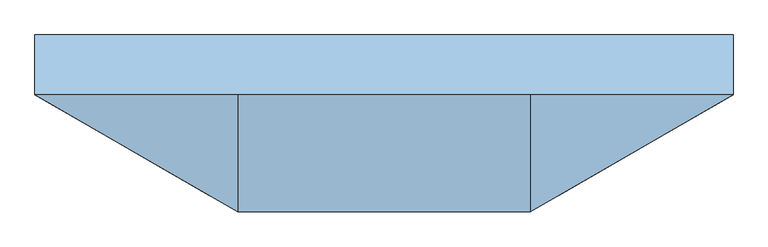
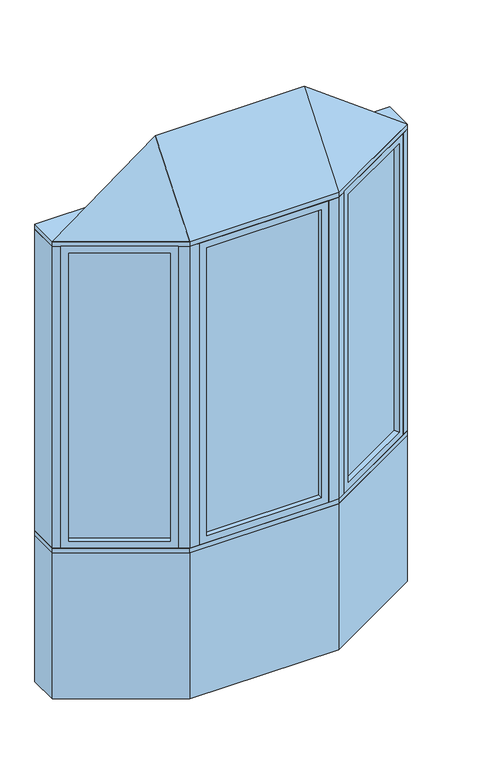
"""IFC4 building model written with IfcOpenShell, lengths in millimetres: window geometry, Pollard_Windows_Tudor Casement Bows and Bays : AML-BAY 30 AFR0516-08-500."""

from ifc_helpers import new_model, si_unit, frame, origin, origin_with_axes, place, context, project, spatial, polyline, outline, extrude, faceted_brep, source, transform, mapped, element, save


def window_a33aca33(model_context):
    return source(origin(), model_context, "Body", "SolidModel", [
        extrude(outline(polyline([(826.612102, -82.0482469), (423.7320119, -314.6511754), (421.1920119, -310.2517664), (824.072102, -77.6488379), (826.612102, -82.0482469)])), frame((0.0, 0.0, 823.1628), z_axis=(0.0, 0.0, 1.0), x_axis=(1.0, 0.0, 0.0)), (0.0, 0.0, 1.0), 1553.6704),
        faceted_brep([(815.6135794, -88.3982469, 835.8628), (828.3135794, -110.3952922, 835.8628), (828.3135794, -110.3952922, 2364.1332), (815.6135794, -88.3982469, 2364.1332), (824.072102, -77.6488379, 823.1628), (826.612102, -82.0482469, 823.1628), (826.612102, -82.0482469, 2376.8332), (824.072102, -77.6488379, 2376.8332), (800.3735794, -62.0017926, 835.8628), (813.0735794, -83.9988379, 835.8628), (813.0735794, -83.9988379, 2364.1332), (800.3735794, -62.0017926, 2364.1332), (859.3734073, -92.4628922, 799.998), (831.4334073, -44.0693926, 799.998), (831.4334073, -44.0693926, 2399.998), (859.3734073, -92.4628922, 2399.998), (447.4305346, -330.2982207, 2364.1332), (434.7305346, -308.3011754, 2364.1332), (423.7320119, -314.6511754, 2376.8332), (421.1920119, -310.2517664, 2376.8332), (432.1905346, -303.9017664, 2364.1332), (419.4905346, -281.9047211, 2364.1332), (388.4307067, -299.8371211, 2399.998), (416.3707067, -348.2306207, 2399.998), (447.4305346, -330.2982207, 835.8628), (434.7305346, -308.3011754, 835.8628), (423.7320119, -314.6511754, 823.1628), (421.1920119, -310.2517664, 823.1628), (432.1905346, -303.9017664, 835.8628), (419.4905346, -281.9047211, 835.8628), (388.4307067, -299.8371211, 799.998), (416.3707067, -348.2306207, 799.998)], [[[0, 1, 2, 3]], [[4, 5, 6, 7]], [[8, 9, 10, 11]], [[12, 13, 14, 15]], [[3, 2, 16, 17]], [[7, 6, 18, 19]], [[11, 10, 20, 21]], [[15, 14, 22, 23]], [[17, 16, 24, 25]], [[19, 18, 26, 27]], [[21, 20, 28, 29]], [[23, 22, 30, 31]], [[25, 24, 1, 0]], [[5, 26, 18, 6], [3, 17, 25, 0]], [[27, 26, 5, 4]], [[7, 19, 27, 4], [9, 28, 20, 10]], [[29, 28, 9, 8]], [[13, 30, 22, 14], [11, 21, 29, 8]], [[31, 30, 13, 12]], [[15, 23, 31, 12], [1, 24, 16, 2]]]),
        extrude(outline(polyline([(-423.7320119, -314.6511754), (-826.612102, -82.0482469), (-824.072102, -77.6488379), (-421.1920119, -310.2517664), (-423.7320119, -314.6511754)])), frame((0.0, 0.0, 823.1628), z_axis=(0.0, 0.0, 1.0), x_axis=(1.0, 0.0, 0.0)), (0.0, 0.0, 1.0), 1553.6704),
        faceted_brep([(-432.1905346, -303.9017664, 2364.1332), (-419.4905346, -281.9047211, 2364.1332), (-419.4905346, -281.9047211, 835.8628), (-432.1905346, -303.9017664, 835.8628), (-423.7320119, -314.6511754, 2376.8332), (-421.1920119, -310.2517664, 2376.8332), (-421.1920119, -310.2517664, 823.1628), (-423.7320119, -314.6511754, 823.1628), (-447.4305346, -330.2982207, 2364.1332), (-434.7305346, -308.3011754, 2364.1332), (-434.7305346, -308.3011754, 835.8628), (-447.4305346, -330.2982207, 835.8628), (-388.4307067, -299.8371211, 2399.998), (-416.3707067, -348.2306207, 2399.998), (-416.3707067, -348.2306207, 799.998), (-388.4307067, -299.8371211, 799.998), (-800.3735794, -62.0017926, 835.8628), (-813.0735794, -83.9988379, 835.8628), (-824.072102, -77.6488379, 823.1628), (-826.612102, -82.0482469, 823.1628), (-815.6135794, -88.3982469, 835.8628), (-828.3135794, -110.3952922, 835.8628), (-859.3734073, -92.4628922, 799.998), (-831.4334073, -44.0693926, 799.998), (-800.3735794, -62.0017926, 2364.1332), (-813.0735794, -83.9988379, 2364.1332), (-824.072102, -77.6488379, 2376.8332), (-826.612102, -82.0482469, 2376.8332), (-815.6135794, -88.3982469, 2364.1332), (-828.3135794, -110.3952922, 2364.1332), (-859.3734073, -92.4628922, 2399.998), (-831.4334073, -44.0693926, 2399.998)], [[[0, 1, 2, 3]], [[4, 5, 6, 7]], [[8, 9, 10, 11]], [[12, 13, 14, 15]], [[3, 2, 16, 17]], [[7, 6, 18, 19]], [[11, 10, 20, 21]], [[15, 14, 22, 23]], [[17, 16, 24, 25]], [[19, 18, 26, 27]], [[21, 20, 28, 29]], [[23, 22, 30, 31]], [[15, 23, 31, 12], [1, 24, 16, 2]], [[25, 24, 1, 0]], [[5, 26, 18, 6], [3, 17, 25, 0]], [[27, 26, 5, 4]], [[7, 19, 27, 4], [9, 28, 20, 10]], [[29, 28, 9, 8]], [[13, 30, 22, 14], [11, 21, 29, 8]], [[31, 30, 13, 12]]]),
        extrude(outline(polyline([(299.9046365, -347.8306207), (-299.9046365, -347.8306207), (-299.9046365, -342.7506207), (299.9046365, -342.7506207), (299.9046365, -347.8306207)])), frame((0.0, 0.0, 823.1628), z_axis=(0.0, 0.0, 1.0), x_axis=(1.0, 0.0, 0.0)), (0.0, 0.0, 1.0), 1553.6704),
        faceted_brep([(287.2046365, -347.8306207, 835.8628), (287.2046365, -373.2306207, 835.8628), (287.2046365, -373.2306207, 2364.1332), (287.2046365, -347.8306207, 2364.1332), (299.9046365, -342.7506207, 823.1628), (299.9046365, -347.8306207, 823.1628), (299.9046365, -347.8306207, 2376.8332), (299.9046365, -342.7506207, 2376.8332), (287.2046365, -317.3506207, 835.8628), (287.2046365, -342.7506207, 835.8628), (287.2046365, -342.7506207, 2364.1332), (287.2046365, -317.3506207, 2364.1332), (323.0694365, -373.2306207, 799.998), (323.0694365, -317.3506207, 799.998), (323.0694365, -317.3506207, 2399.998), (323.0694365, -373.2306207, 2399.998), (-287.2046365, -373.2306207, 2364.1332), (-287.2046365, -347.8306207, 2364.1332), (-299.9046365, -347.8306207, 2376.8332), (-299.9046365, -342.7506207, 2376.8332), (-287.2046365, -342.7506207, 2364.1332), (-287.2046365, -317.3506207, 2364.1332), (-323.0694365, -317.3506207, 2399.998), (-323.0694365, -373.2306207, 2399.998), (-287.2046365, -373.2306207, 835.8628), (-287.2046365, -347.8306207, 835.8628), (-299.9046365, -347.8306207, 823.1628), (-299.9046365, -342.7506207, 823.1628), (-287.2046365, -342.7506207, 835.8628), (-287.2046365, -317.3506207, 835.8628), (-323.0694365, -317.3506207, 799.998), (-323.0694365, -373.2306207, 799.998)], [[[0, 1, 2, 3]], [[4, 5, 6, 7]], [[8, 9, 10, 11]], [[12, 13, 14, 15]], [[3, 2, 16, 17]], [[7, 6, 18, 19]], [[11, 10, 20, 21]], [[15, 14, 22, 23]], [[17, 16, 24, 25]], [[19, 18, 26, 27]], [[21, 20, 28, 29]], [[23, 22, 30, 31]], [[15, 23, 31, 12], [1, 24, 16, 2]], [[25, 24, 1, 0]], [[5, 26, 18, 6], [3, 17, 25, 0]], [[27, 26, 5, 4]], [[7, 19, 27, 4], [9, 28, 20, 10]], [[29, 28, 9, 8]], [[13, 30, 22, 14], [11, 21, 29, 8]], [[31, 30, 13, 12]]]),
        faceted_brep([(890.0, -74.7806207, 2425.398), (373.0694365, -373.2306207, 2425.398), (-373.0694365, -373.2306207, 2425.398), (-890.0, -74.7806207, 2425.398), (-373.0694365, -74.7806207, 2806.398), (373.0694365, -74.7806207, 2806.398)], [[[0, 1, 2, 3]], [[3, 2, 4]], [[2, 1, 5, 4]], [[1, 0, 5]], [[0, 3, 4, 5]]]),
        extrude(outline(polyline([(-890.0, 77.6193793), (890.0, 77.6193793), (890.0, -74.7806207), (373.0694365, -373.2306207), (-373.0694365, -373.2306207), (-890.0, -74.7806207), (-890.0, 77.6193793)])), frame((0.0, 0.0, 2399.998), z_axis=(0.0, 0.0, 1.0), x_axis=(1.0, 0.0, 0.0)), (0.0, 0.0, 1.0), 25.4),
        extrude(outline(polyline([(-890.0, -74.7806207), (-890.0, 77.6193793), (-849.1645431, 77.6193793), (-849.1645431, -74.7806207), (-859.3734073, -92.4628922), (-890.0, -74.7806207)])), frame((0.0, 0.0, 799.998), z_axis=(0.0, 0.0, 1.0), x_axis=(1.0, 0.0, 0.0)), (0.0, 0.0, 1.0), 1600.0),
        extrude(outline(polyline([(890.0, 77.6193793), (890.0, -74.7806207), (859.3734073, -92.4628922), (849.1645431, -74.7806207), (849.1645431, 77.6193793), (890.0, 77.6193793)])), frame((0.0, 0.0, 799.998), z_axis=(0.0, 0.0, 1.0), x_axis=(1.0, 0.0, 0.0)), (0.0, 0.0, 1.0), 1600.0),
        extrude(outline(polyline([(373.0694365, -373.2306207), (323.0694365, -373.2306207), (323.0694365, -323.2306207), (359.6719769, -323.2306207), (391.3707067, -304.9293505), (416.3707067, -348.2306207), (373.0694365, -373.2306207)])), frame((0.0, 0.0, 799.998), z_axis=(0.0, 0.0, 1.0), x_axis=(1.0, 0.0, 0.0)), (0.0, 0.0, 1.0), 1600.0),
        extrude(outline(polyline([(-373.0694365, -373.2306207), (-416.3707067, -348.2306207), (-391.3707067, -304.9293505), (-359.6719769, -323.2306207), (-323.0694365, -323.2306207), (-323.0694365, -373.2306207), (-373.0694365, -373.2306207)])), frame((0.0, 0.0, 799.998), z_axis=(0.0, 0.0, 1.0), x_axis=(1.0, 0.0, 0.0)), (0.0, 0.0, 1.0), 1600.0),
        extrude(outline(polyline([(-373.0694365, -373.2306207), (-890.0, -74.7806207), (-890.0, 77.6193793), (-849.1645431, 77.6193793), (-332.2339796, -220.8306207), (332.2339796, -220.8306207), (849.1645431, 77.6193793), (890.0, 77.6193793), (890.0, -74.7806207), (373.0694365, -373.2306207), (-373.0694365, -373.2306207)])), frame((0.0, 0.0, 774.598), z_axis=(0.0, 0.0, 1.0), x_axis=(1.0, 0.0, 0.0)), (0.0, 0.0, 1.0), 25.4),
        extrude(outline(polyline([(-890.0, -74.7806207), (-890.0, 77.6193793), (-849.1645431, 77.6193793), (-332.2339796, -220.8306207), (332.2339796, -220.8306207), (849.1645431, 77.6193793), (890.0, 77.6193793), (890.0, -74.7806207), (373.0694365, -373.2306207), (-373.0694365, -373.2306207), (-890.0, -74.7806207)])), origin_with_axes(), (0.0, 0.0, 1.0), 774.598),
    ])


if __name__ == "__main__":
    model = new_model("IFC4")
    model_context = context("Model", 3, world=origin())
    ifc_project = project(units=[si_unit("LENGTHUNIT", "METRE", prefix="MILLI")], contexts=[model_context])
    site = spatial("IfcSite", under=ifc_project)
    building = spatial("IfcBuilding", under=site)
    placement = place(None, origin())
    window_shape = window_a33aca33(model_context)
    element("IfcWindow", 1, ObjectType="Pollard_Windows_Tudor Casement Bows and Bays : AML-BAY 30 AFR0516-08-500", at=placement, inside=building, context=model_context, shape_type="MappedRepresentation", body=[
        mapped(window_shape, transform((0.0, 0.0, 0.0), x_axis=(1.0, 0.0, 0.0), y_axis=(0.0, 1.0, 0.0), z_axis=(0.0, 0.0, 1.0))),
    ])
    save(model, "model.ifc")
